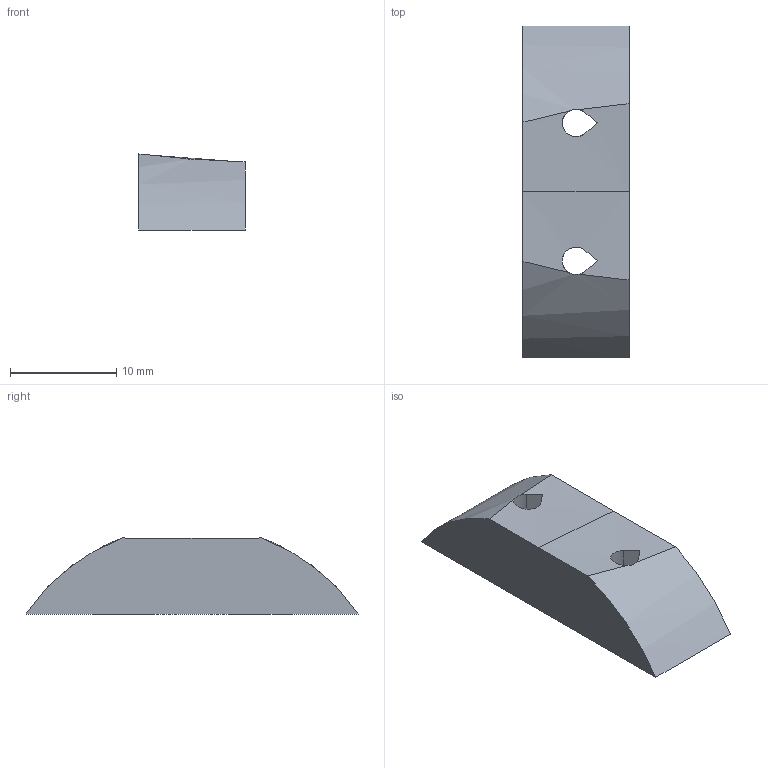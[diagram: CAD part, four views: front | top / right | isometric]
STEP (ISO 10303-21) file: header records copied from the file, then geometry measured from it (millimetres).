
FILE_DESCRIPTION(('SkyG Speed 90B - revision C6B-9 - 2026-10-11','NB1-wing-nut-bar-front'),'2;1');
FILE_NAME('NB1-wing-nut-bar-front_C6B-9','2026-10-10T23:18:28',('Author'),( 'Open CASCADE'),'Open CASCADE STEP processor 7.9','Open CASCADE 7.9' ,'Unknown');
FILE_SCHEMA(('AUTOMOTIVE_DESIGN { 1 0 10303 214 1 1 1 1 }'));
Length unit declared in the file: millimetre
Products named in the file (1): NB1-wing-nut-bar-front C6B-9
Bounding box: 10 x 31.31 x 7.17 mm (x, y, z)
Volume: 1407.4 mm3; surface area: 1198.5 mm2
Topology: 1 solids, 1 shells, 27 faces, 75 edges, 50 vertices
Faces by surface type: plane 21, cylinder 4, bspline 2
Entity records: 4514 total; most frequent: CARTESIAN_POINT 3159, DIRECTION 191, ORIENTED_EDGE 150, PCURVE 150, DEFINITIONAL_REPRESENTATION 150, LINE 121, VECTOR 121, B_SPLINE_CURVE_WITH_KNOTS 92
